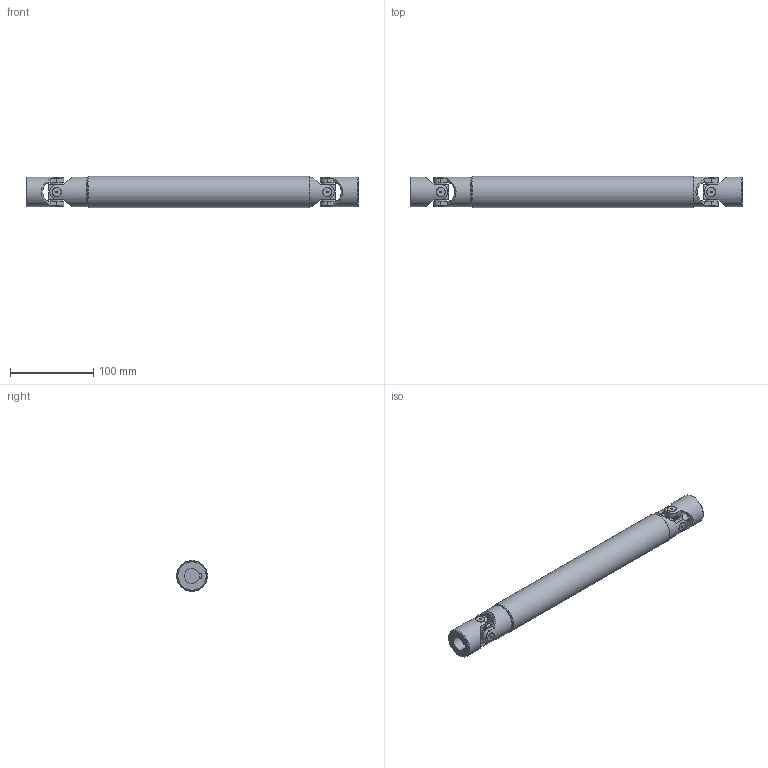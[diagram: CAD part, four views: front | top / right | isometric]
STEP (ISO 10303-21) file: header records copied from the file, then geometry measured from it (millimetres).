
FILE_DESCRIPTION(/* description */ (''),/* implementation_level */ '2;1');
FILE_NAME(/* name */ '\\SRV2016\Societa\Stefano\Disegni 3D\00Catalogo 3D\03Trasmissioni standard GA\2GA26\2GA26_SG0A1826.stp',/* time_stamp */ '2022-02-16T17:04:25+01:00',/* author */ ('acquisti'),/* organization */ (''),/* preprocessor_version */ 'ST-DEVELOPER v15.6',/* originating_system */ 'Autodesk Inventor 2015',/* authorisation */ '');
FILE_SCHEMA (('AUTOMOTIVE_DESIGN { 1 0 10303 214 3 1 1 }'));
Length unit declared in the file: millimetre
Products named in the file (5): 2G MOC; 2G SFE; 2GA26 LAI; 2GA26 LCI; 2GA26_SG0A1826
Assembly tree (6 placements, depth 2):
  2GA26_SG0A1826
    2G MOC  x2
    2G SFE  x2
    2GA26 LAI
    2GA26 LCI
Bounding box: 400 x 37.5 x 37.5 mm (x, y, z)
Volume: 289718.9 mm3; surface area: 107795.8 mm2
Topology: 6 solids, 6 shells, 228 faces, 561 edges, 369 vertices
Faces by surface type: plane 106, cylinder 93, cone 25, torus 4
Full cylindrical faces by diameter (mm): 2 x8, 16 x8, 18 x1, 20 x2, 31 x1, 36 x4, 37.5 x1
Entity records: 5813 total; most frequent: CARTESIAN_POINT 1703, DIRECTION 823, ORIENTED_EDGE 820, EDGE_CURVE 410, AXIS2_PLACEMENT_3D 335, VERTEX_POINT 286, EDGE_LOOP 224, FACE_OUTER_BOUND 176
